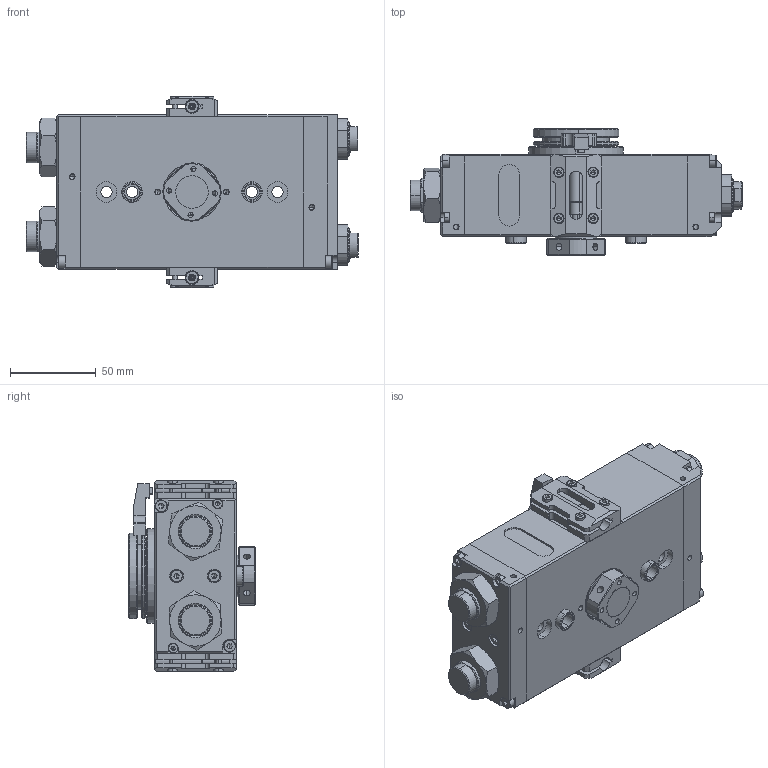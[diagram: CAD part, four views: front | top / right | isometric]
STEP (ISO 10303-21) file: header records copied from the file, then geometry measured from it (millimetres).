
FILE_DESCRIPTION (( 'STEP AP214' ), '1' );
FILE_NAME ('PFS34E.STEP', '2016-01-05T04:28:47', ( 'Registered User' ), ( 'Microsoft Corporation' ), 'SwSTEP 2.0', 'SolidWorks 2015', '' );
FILE_SCHEMA (( 'AUTOMOTIVE_DESIGN' ));
Length unit declared in the file: millimetre
Products named in the file (2): PFS34E
Bounding box: 194 x 74 x 112 mm (x, y, z)
Volume: 673914.8 mm3; surface area: 236386.4 mm2
Topology: 60 solids, 60 shells, 2596 faces, 6869 edges, 4219 vertices
Faces by surface type: cylinder 835, plane 812, torus 511, cone 336, sphere 102
Entity records: 110931 total; most frequent: CARTESIAN_POINT 19065, DIRECTION 13565, ORIENTED_EDGE 13044, EDGE_CURVE 6522, AXIS2_PLACEMENT_3D 5580, VERTEX_POINT 4066, CIRCLE 2982, EDGE_LOOP 2906
